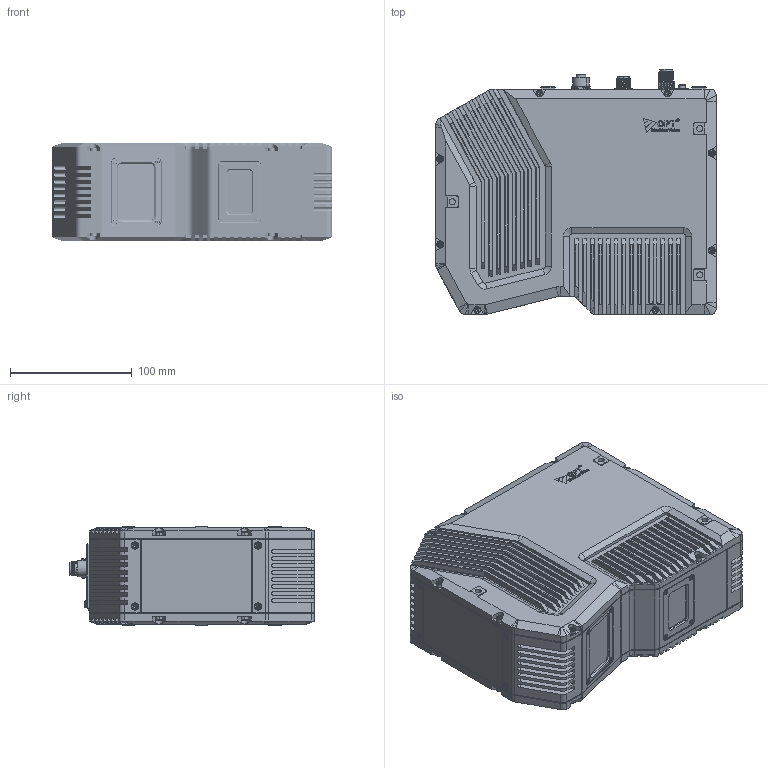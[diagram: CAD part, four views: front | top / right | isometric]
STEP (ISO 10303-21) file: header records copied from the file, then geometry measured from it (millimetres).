
FILE_DESCRIPTION((''),'2;1');
FILE_NAME('FPC1-032-200','2025-08-04T17:02:13',('OPT-YF-LDR'),(''),'CREO PARAMETRIC BY PTC INC, 2020354','CREO PARAMETRIC BY PTC INC, 2020354','');
FILE_SCHEMA(('AUTOMOTIVE_DESIGN { 1 0 10303 214 1 1 1 1 }'));
Products named in the file (1): FPC1-032-200
Bounding box: 230 x 200.9 x 81 mm (x, y, z)
Volume: 3019022.4 mm3; surface area: 277896.7 mm2
Topology: 1 solids, 113 shells, 5049 faces, 12889 edges, 7819 vertices
Faces by surface type: plane 2299, cylinder 1104, cone 570, bspline 549, extrusion 457, torus 46, sphere 24
Entity records: 300859 total; most frequent: CARTESIAN_POINT 116267, ORIENTED_EDGE 24826, DIRECTION 21834, PRESENTATION_STYLE_ASSIGNMENT 16646, STYLED_ITEM 12845, CURVE_STYLE 12844, EDGE_CURVE 12413, VERTEX_POINT 7815
